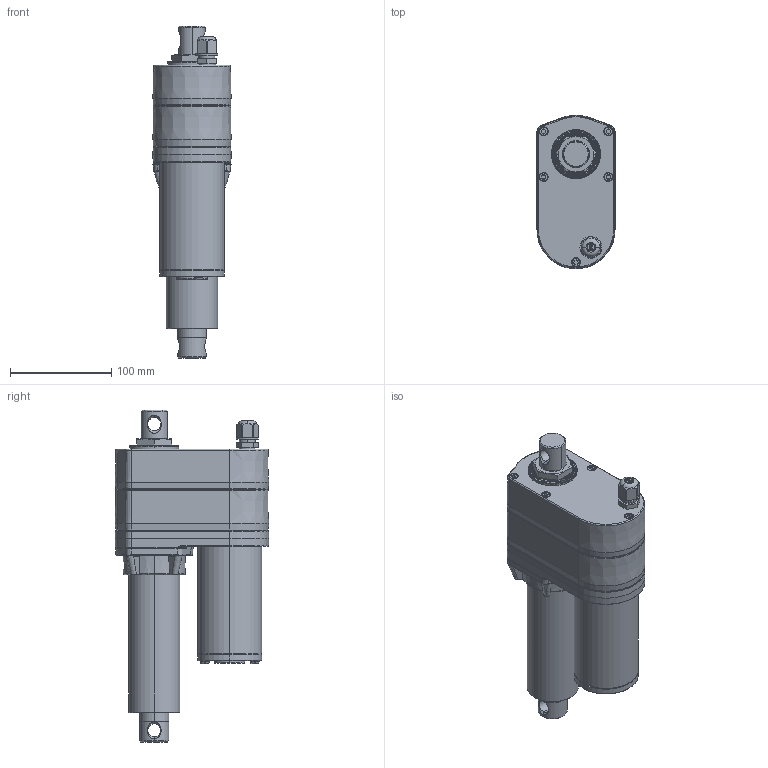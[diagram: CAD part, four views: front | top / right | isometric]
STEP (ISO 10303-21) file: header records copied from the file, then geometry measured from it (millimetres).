
FILE_DESCRIPTION((''),' ');
FILE_NAME('dszy2_pot_hs2_102.stp',' ',('R. Lindner'),('MSW GmbH'),' ','ACIS 14.0',' ');
FILE_SCHEMA(('automotive_design'));
Length unit declared in the file: inch
Products named in the file (2): DSZY2-POT-HS2-102|NAUO2#-2;Â°Â£Â®Ã†-Â±Ã›Ã‚Ã 5; DSZY2-POT-HS2-102|NAUO1#-1;Â°Â£Â®Ã†-Â¦Ã¹ÂªÃ¸9
Bounding box: 77.15 x 151.65 x 327.7 mm (x, y, z)
Volume: 1805056.3 mm3; surface area: 150780.3 mm2
Topology: 2 solids, 2 shells, 918 faces, 2376 edges, 1502 vertices
Faces by surface type: plane 549, cylinder 189, torus 80, cone 58, bspline 40, sphere 2
Entity records: 37923 total; most frequent: CARTESIAN_POINT 9796, ORIENTED_EDGE 4748, DIRECTION 4026, EDGE_CURVE 2374, VERTEX_POINT 1502, AXIS2_PLACEMENT_3D 1490, LINE 1046, VECTOR 1046
